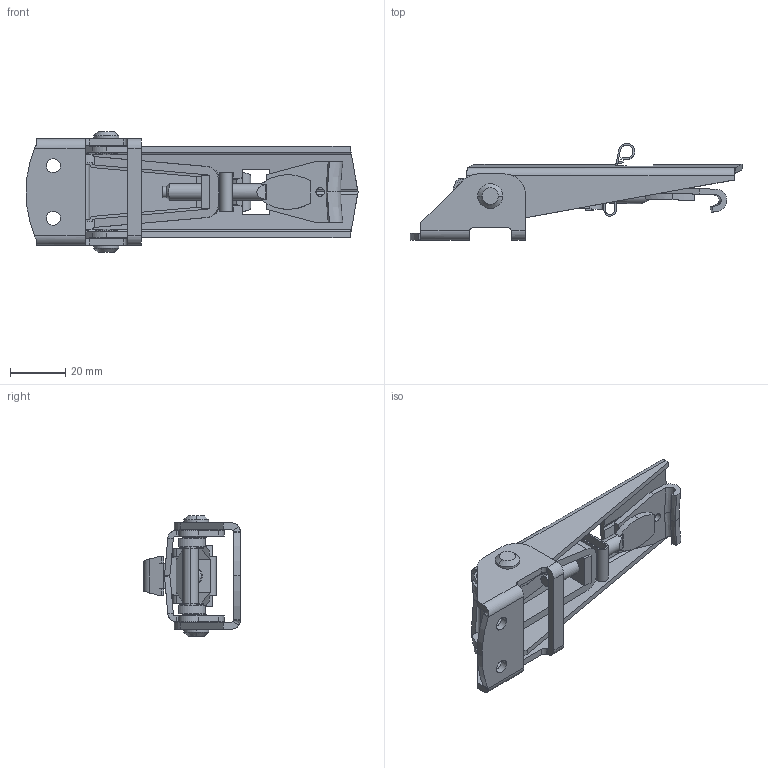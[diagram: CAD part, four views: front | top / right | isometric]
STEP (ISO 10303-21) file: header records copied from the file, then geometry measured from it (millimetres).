
FILE_DESCRIPTION (( 'STEP AP214' ), '1' );
FILE_NAME ('V18L01-1X1_Dummy.STEP', '2009-09-08T07:13:03', ( '' ), ( '' ), 'SwSTEP 2.0', 'SolidWorks 2007', '' );
FILE_SCHEMA (( 'AUTOMOTIVE_DESIGN' ));
Length unit declared in the file: millimetre
Products named in the file (1): V18L01-1X1_Dummy
Bounding box: 119.97 x 35.01 x 43.65 mm (x, y, z)
Volume: 23054.6 mm3; surface area: 25013.9 mm2
Topology: 1 solids, 1 shells, 349 faces, 941 edges, 601 vertices
Faces by surface type: plane 157, cylinder 124, bspline 38, cone 14, torus 12, sphere 4
Entity records: 12062 total; most frequent: CARTESIAN_POINT 3524, ORIENTED_EDGE 1882, DIRECTION 1669, EDGE_CURVE 941, VERTEX_POINT 601, AXIS2_PLACEMENT_3D 562, VECTOR 545, LINE 545
